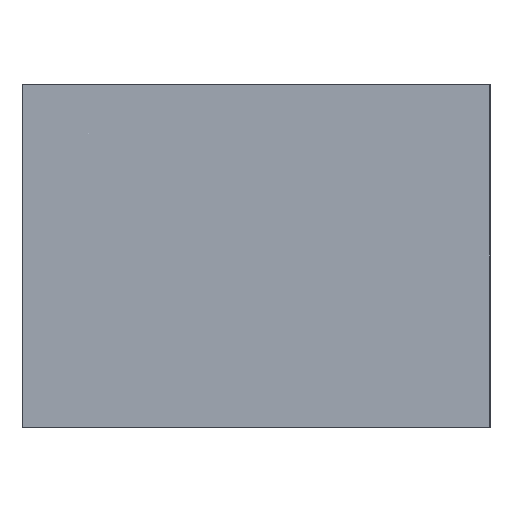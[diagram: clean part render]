
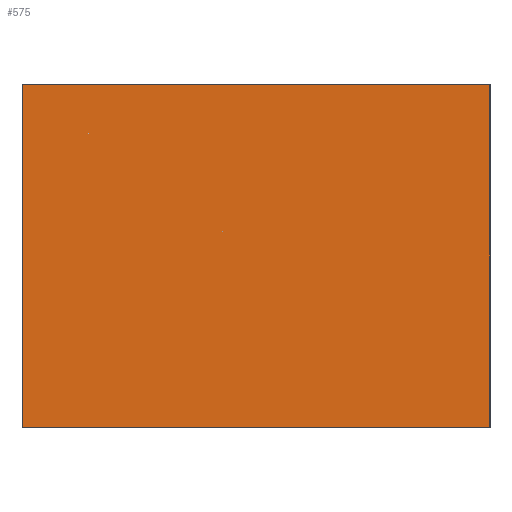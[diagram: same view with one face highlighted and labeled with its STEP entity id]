
A CAD part, left-side view. The second image highlights one B-rep face of the part: STEP entity #575.
In plain terms, the highlighted planar face has unit normal (-1, 0, 0).
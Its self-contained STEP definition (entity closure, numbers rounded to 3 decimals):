
#1=DIRECTION('',(0.,0.,-1.));
#2=VECTOR('',#1,49.);
#3=CARTESIAN_POINT('',(-73.,0.,24.5));
#4=LINE('',#3,#2);
#57=DIRECTION('',(0.,1.,0.));
#58=VECTOR('',#57,67.);
#59=CARTESIAN_POINT('',(-73.,-67.,-24.5));
#60=LINE('',#59,#58);
#69=DIRECTION('',(0.,1.,0.));
#70=VECTOR('',#69,67.);
#71=CARTESIAN_POINT('',(-73.,-67.,24.5));
#72=LINE('',#71,#70);
#139=DIRECTION('',(0.,0.,-1.));
#140=VECTOR('',#139,49.);
#141=CARTESIAN_POINT('',(-73.,-67.,24.5));
#142=LINE('',#141,#140);
#409=CARTESIAN_POINT('',(-73.,0.,24.5));
#410=CARTESIAN_POINT('',(-73.,0.,-24.5));
#411=VERTEX_POINT('',#409);
#412=VERTEX_POINT('',#410);
#417=CARTESIAN_POINT('',(-73.,-67.,24.5));
#418=CARTESIAN_POINT('',(-73.,-67.,-24.5));
#419=VERTEX_POINT('',#417);
#420=VERTEX_POINT('',#418);
#561=CARTESIAN_POINT('',(-73.,0.,-24.5));
#562=DIRECTION('',(-1.,0.,0.));
#563=DIRECTION('',(0.,0.,1.));
#564=AXIS2_PLACEMENT_3D('',#561,#562,#563);
#565=PLANE('',#564);
#566=ORIENTED_EDGE('',*,*,#526,.F.);
#568=ORIENTED_EDGE('',*,*,#567,.F.);
#570=ORIENTED_EDGE('',*,*,#569,.T.);
#572=ORIENTED_EDGE('',*,*,#571,.T.);
#573=EDGE_LOOP('',(#566,#568,#570,#572));
#574=FACE_OUTER_BOUND('',#573,.F.);
#575=ADVANCED_FACE('',(#574),#565,.T.);
#526=EDGE_CURVE('',#411,#412,#4,.T.);
#567=EDGE_CURVE('',#419,#411,#72,.T.);
#569=EDGE_CURVE('',#419,#420,#142,.T.);
#571=EDGE_CURVE('',#420,#412,#60,.T.);
